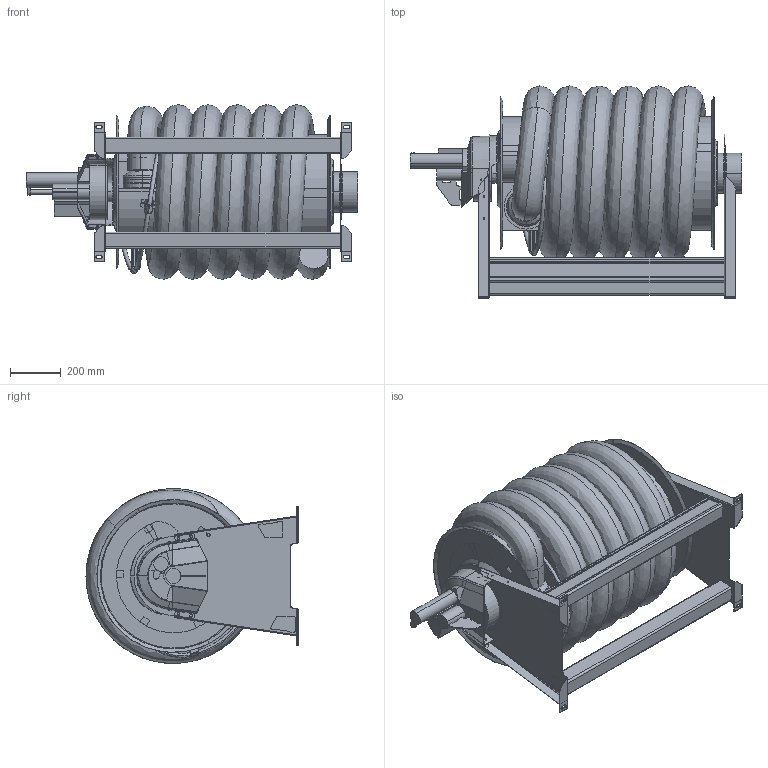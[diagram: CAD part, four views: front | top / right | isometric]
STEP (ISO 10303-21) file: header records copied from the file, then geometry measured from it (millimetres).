
FILE_DESCRIPTION((''),'2;1');
FILE_NAME('ASEM_85_100-10','2022-04-20T15:15:39',('Tomas Bellgran'),(''),'CREO PARAMETRIC BY PTC INC, 2018260','CREO PARAMETRIC BY PTC INC, 2018260','');
FILE_SCHEMA(('AUTOMOTIVE_DESIGN { 1 0 10303 214 1 1 1 1 }'));
Products named in the file (27): 110534; 110536; 110802; 111736; 111735; 110552; 112850; 110528; 110592; 110652; G_ASE_DUMMY; 124129; G_ASL-EVO_150CON_BRACKET; GUIDE_100; 110660; 124298; ASEM_DRUM_85_100; HOSE_100_10M; 143740; 143700; 143550; 144299; 143702; 144230; 111192_NEW; 104504_L; ASEM_85_100-10
Assembly tree (30 placements, depth 4):
  ASEM_85_100-10
    110552
      110534
      110536
      110802  x2
      111736
      111735
    112850  x2
    ASEM_DRUM_85_100
      110528  x2
      110592
      110652
      G_ASL-EVO_150CON_BRACKET
        G_ASE_DUMMY
        124129
      GUIDE_100
      110660  x2
      124298
    HOSE_100_10M
    104504_L
      143740
      143702
        143700
        143550
        144299
      144230
      111192_NEW
Bounding box: 1302 x 833.5 x 687.08 mm (x, y, z)
Volume: 255682434.8 mm3; surface area: 12022853.5 mm2
Topology: 25 solids, 29 shells, 1061 faces, 2496 edges, 1499 vertices
Faces by surface type: plane 544, cylinder 326, bspline 87, torus 72, cone 32
Entity records: 53977 total; most frequent: CARTESIAN_POINT 18487, DIRECTION 4678, ORIENTED_EDGE 4104, EDGE_CURVE 2058, AXIS2_PLACEMENT_3D 1673, PRESENTATION_STYLE_ASSIGNMENT 1645, STYLED_ITEM 1644, PROPERTY_DEFINITION 1425
